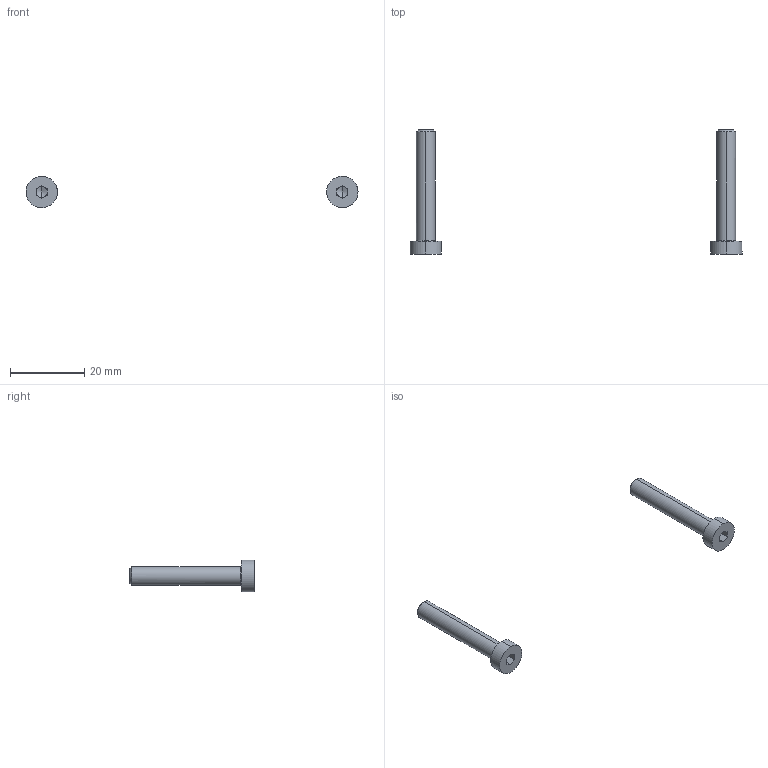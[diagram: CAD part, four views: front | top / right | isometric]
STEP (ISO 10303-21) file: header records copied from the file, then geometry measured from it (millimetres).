
FILE_DESCRIPTION(/* description */ (''),/* implementation_level */ '2;1');
FILE_NAME(/* name */ '7.x-cart#7.6#CBSST5-30',/* time_stamp */ '2014-12-01T20:17:38+01:00',/* author */ (''),/* organization */ (''),/* preprocessor_version */ 'ST-DEVELOPER v14',/* originating_system */ '',/* authorisation */ '');
FILE_SCHEMA (('AUTOMOTIVE_DESIGN'));
Length unit declared in the file: millimetre
Products named in the file (1): Document
Bounding box: 89.48 x 33.5 x 8.5 mm (x, y, z)
Volume: 1531.1 mm3; surface area: 1401.3 mm2
Topology: 2 solids, 2 shells, 50 faces, 118 edges, 72 vertices
Faces by surface type: plane 30, bspline 20
Entity records: 3081 total; most frequent: CARTESIAN_POINT 1547, B_SPLINE_CURVE_WITH_KNOTS 258, ORIENTED_EDGE 228, PCURVE 228, DEFINITIONAL_REPRESENTATION 228, SURFACE_CURVE 114, EDGE_CURVE 114, VERTEX_POINT 72
